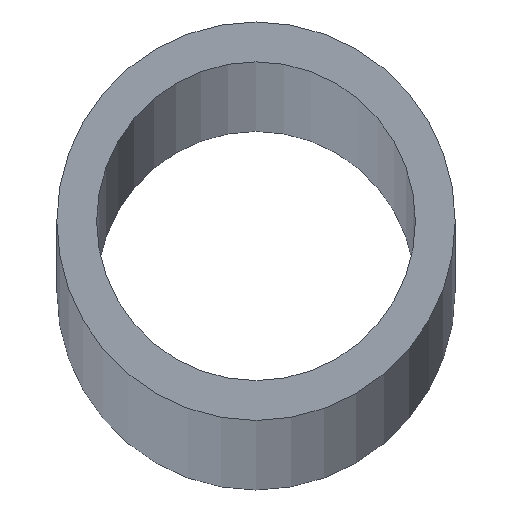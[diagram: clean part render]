
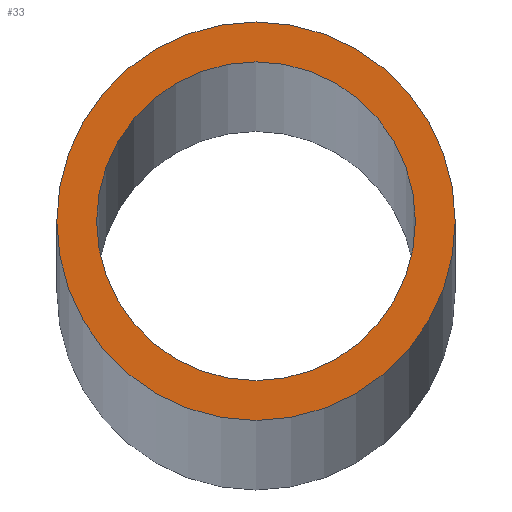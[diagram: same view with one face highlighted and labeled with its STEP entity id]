
A CAD part, top view. The second image highlights one B-rep face of the part: STEP entity #33.
In plain terms, the highlighted planar face has unit normal (0, 0, 1).
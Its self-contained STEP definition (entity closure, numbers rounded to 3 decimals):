
#4 = DIRECTION ( 'NONE',  ( 1., 0., 0. ) ) ;
#8 = VERTEX_POINT ( 'NONE', #110 ) ;
#9 = AXIS2_PLACEMENT_3D ( 'NONE', #135, #206, #50 ) ;
#17 = ORIENTED_EDGE ( 'NONE', *, *, #151, .T. ) ;
#19 = CARTESIAN_POINT ( 'NONE',  ( 8., 0., 2000. ) ) ;
#20 = DIRECTION ( 'NONE',  ( 0., 0., 1. ) ) ;
#23 = ORIENTED_EDGE ( 'NONE', *, *, #194, .F. ) ;
#28 = FACE_OUTER_BOUND ( 'NONE', #147, .T. ) ;
#31 = AXIS2_PLACEMENT_3D ( 'NONE', #155, #212, #53 ) ;
#33 = ADVANCED_FACE ( 'NONE', ( #28, #157 ), #65, .T. ) ;
#38 = CARTESIAN_POINT ( 'NONE',  ( 0., 0., 2000. ) ) ;
#39 = CARTESIAN_POINT ( 'NONE',  ( 10., 0., 2000. ) ) ;
#43 = CIRCLE ( 'NONE', #125, 8. ) ;
#50 = DIRECTION ( 'NONE',  ( 1., 0., 0. ) ) ;
#53 = DIRECTION ( 'NONE',  ( 1., 0., 0. ) ) ;
#62 = EDGE_LOOP ( 'NONE', ( #159, #23 ) ) ;
#65 = PLANE ( 'NONE',  #158 ) ;
#74 = CIRCLE ( 'NONE', #191, 10. ) ;
#78 = CIRCLE ( 'NONE', #31, 8. ) ;
#79 = CARTESIAN_POINT ( 'NONE',  ( 0., 0., 2000. ) ) ;
#83 = CARTESIAN_POINT ( 'NONE',  ( -8., 0., 2000. ) ) ;
#84 = CIRCLE ( 'NONE', #9, 10. ) ;
#94 = DIRECTION ( 'NONE',  ( 0., 0., 1. ) ) ;
#110 = CARTESIAN_POINT ( 'NONE',  ( -10., 0., 2000. ) ) ;
#118 = DIRECTION ( 'NONE',  ( 1., 0., 0. ) ) ;
#125 = AXIS2_PLACEMENT_3D ( 'NONE', #38, #152, #171 ) ;
#131 = EDGE_CURVE ( 'NONE', #8, #178, #74, .T. ) ;
#135 = CARTESIAN_POINT ( 'NONE',  ( 0., 0., 2000. ) ) ;
#144 = EDGE_CURVE ( 'NONE', #176, #209, #43, .T. ) ;
#147 = EDGE_LOOP ( 'NONE', ( #182, #17 ) ) ;
#151 = EDGE_CURVE ( 'NONE', #178, #8, #84, .T. ) ;
#152 = DIRECTION ( 'NONE',  ( 0., 0., 1. ) ) ;
#154 = CARTESIAN_POINT ( 'NONE',  ( 0., 0., 2000. ) ) ;
#155 = CARTESIAN_POINT ( 'NONE',  ( 0., 0., 2000. ) ) ;
#157 = FACE_BOUND ( 'NONE', #62, .T. ) ;
#158 = AXIS2_PLACEMENT_3D ( 'NONE', #79, #94, #4 ) ;
#159 = ORIENTED_EDGE ( 'NONE', *, *, #144, .F. ) ;
#171 = DIRECTION ( 'NONE',  ( 1., 0., 0. ) ) ;
#176 = VERTEX_POINT ( 'NONE', #83 ) ;
#178 = VERTEX_POINT ( 'NONE', #39 ) ;
#182 = ORIENTED_EDGE ( 'NONE', *, *, #131, .T. ) ;
#191 = AXIS2_PLACEMENT_3D ( 'NONE', #154, #20, #118 ) ;
#194 = EDGE_CURVE ( 'NONE', #209, #176, #78, .T. ) ;
#206 = DIRECTION ( 'NONE',  ( 0., 0., 1. ) ) ;
#209 = VERTEX_POINT ( 'NONE', #19 ) ;
#212 = DIRECTION ( 'NONE',  ( 0., 0., 1. ) ) ;
